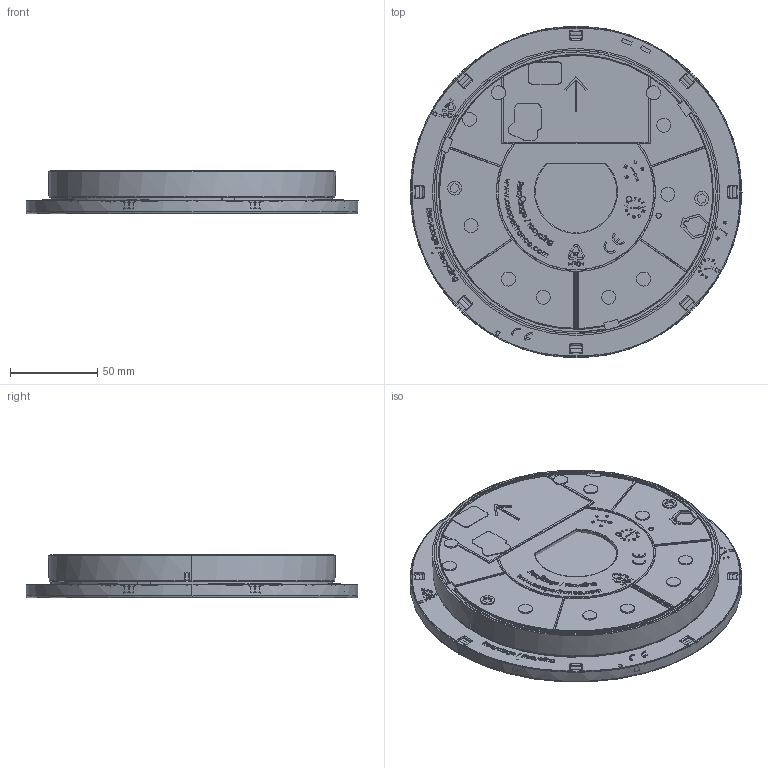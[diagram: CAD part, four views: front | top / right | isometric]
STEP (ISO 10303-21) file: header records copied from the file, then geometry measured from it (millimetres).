
FILE_DESCRIPTION (( 'STEP AP214' ), '1' );
FILE_NAME ('Planete DISC BIM surface.STEP', '2020-01-15T09:06:16', ( '' ), ( '' ), 'SwSTEP 2.0', 'SolidWorks 2016', '' );
FILE_SCHEMA (( 'AUTOMOTIVE_DESIGN' ));
Length unit declared in the file: millimetre
Products named in the file (5): Planete DISC BIM surface; 4BO7433700A - Enjoliver Planete 400D; 5BO7433300-B - couvercle diffusant; 2BO7433500 B - Socle PLANETE 400 DISC_2BO7433502; 2BO7433600 B - Boitier PLANETE 400 DISC
Assembly tree (4 placements, depth 2):
  Planete DISC BIM surface
    2BO7433600 B - Boitier PLANETE 400 DISC
    2BO7433500 B - Socle PLANETE 400 DISC_2BO7433502
    4BO7433700A - Enjoliver Planete 400D
    5BO7433300-B - couvercle diffusant
Bounding box: 189.81 x 189.81 x 24.8 mm (x, y, z)
Volume: 755568 mm3; surface area: 189884.7 mm2
Topology: 4 solids, 4 shells, 2707 faces, 7261 edges, 4730 vertices
Faces by surface type: plane 1174, bspline 743, cylinder 302, cone 296, torus 151, sphere 41
Entity records: 120590 total; most frequent: CARTESIAN_POINT 58668, ORIENTED_EDGE 14522, DIRECTION 10208, EDGE_CURVE 7261, VERTEX_POINT 4730, LINE 3614, VECTOR 3614, AXIS2_PLACEMENT_3D 3297
